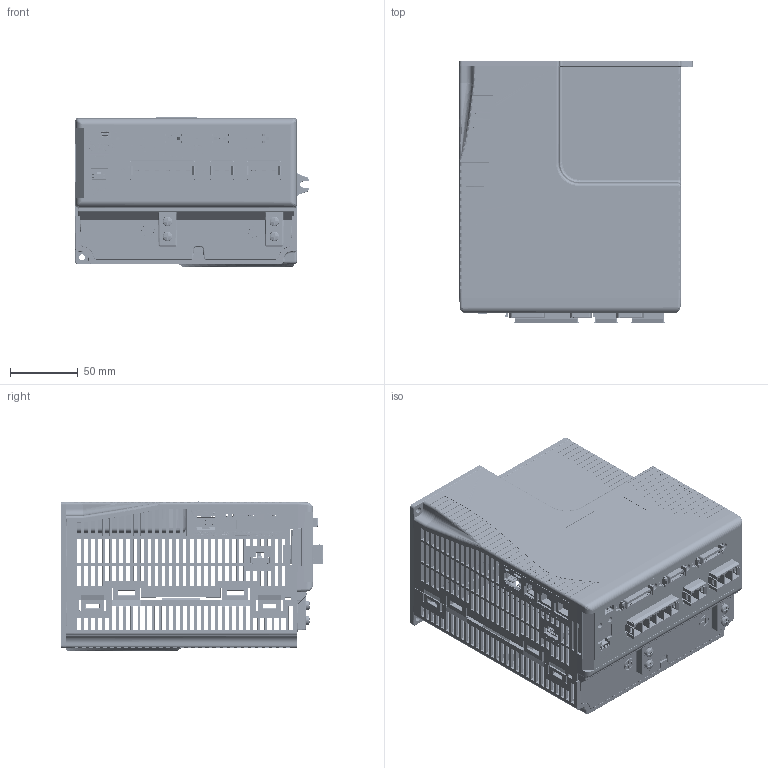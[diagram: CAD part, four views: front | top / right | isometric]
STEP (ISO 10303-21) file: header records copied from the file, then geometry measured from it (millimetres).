
FILE_DESCRIPTION((''),'2;1');
FILE_NAME('400_480_VAC_CDHD-003_CDHD-006','2024-02-01T',('wusong22'),(''),'CREO PARAMETRIC BY PTC INC, 2016260','CREO PARAMETRIC BY PTC INC, 2016260','');
FILE_SCHEMA(('AUTOMOTIVE_DESIGN { 1 0 10303 214 1 1 1 1 }'));
Products named in the file (1): 400_480_VAC_CDHD-003_CDHD-006
Bounding box: 172.17 x 193.12 x 110 mm (x, y, z)
Volume: 110089.9 mm3; surface area: 327662.6 mm2
Topology: 32 solids, 61 shells, 10592 faces, 29342 edges, 19053 vertices
Faces by surface type: plane 7325, cylinder 2043, cone 456, bspline 404, torus 275, sphere 68, extrusion 21
Entity records: 450712 total; most frequent: CARTESIAN_POINT 99493, ORIENTED_EDGE 57390, DIRECTION 49781, EDGE_CURVE 29251, PRESENTATION_STYLE_ASSIGNMENT 21372, VECTOR 21083, LINE 21062, STYLED_ITEM 20620
